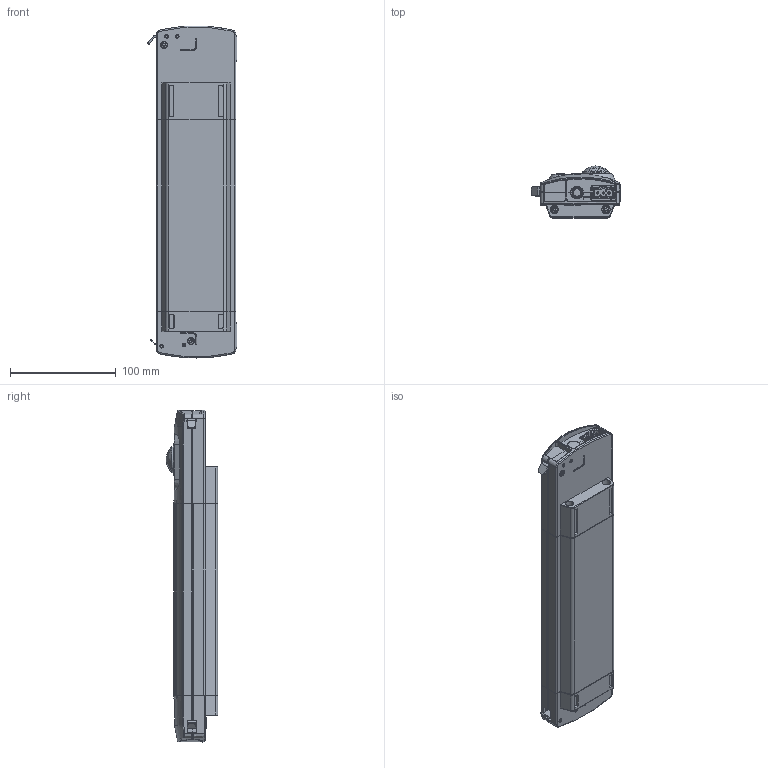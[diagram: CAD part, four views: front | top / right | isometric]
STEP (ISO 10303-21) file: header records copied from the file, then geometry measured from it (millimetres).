
FILE_DESCRIPTION (( 'STEP AP203' ), '1' );
FILE_NAME ('el1200m.STEP', '2020-08-26T13:38:52', ( '' ), ( '' ), 'SwSTEP 2.0', 'SolidWorks 2016', '' );
FILE_SCHEMA (( 'CONFIG_CONTROL_DESIGN' ));
Products named in the file (1): el1200m
Bounding box: 84.81 x 48.97 x 314.41 mm (x, y, z)
Surface area: 296764.2 mm2 (no closed solid volume)
Topology: 0 solids, 98 shells, 4687 faces, 12854 edges, 8403 vertices
Faces by surface type: plane 2983, cylinder 1111, bspline 344, cone 236, torus 13
Entity records: 164290 total; most frequent: CARTESIAN_POINT 47046, ORIENTED_EDGE 25646, DIRECTION 22756, EDGE_CURVE 12844, LINE 8896, VECTOR 8896, VERTEX_POINT 8405, AXIS2_PLACEMENT_3D 6930
